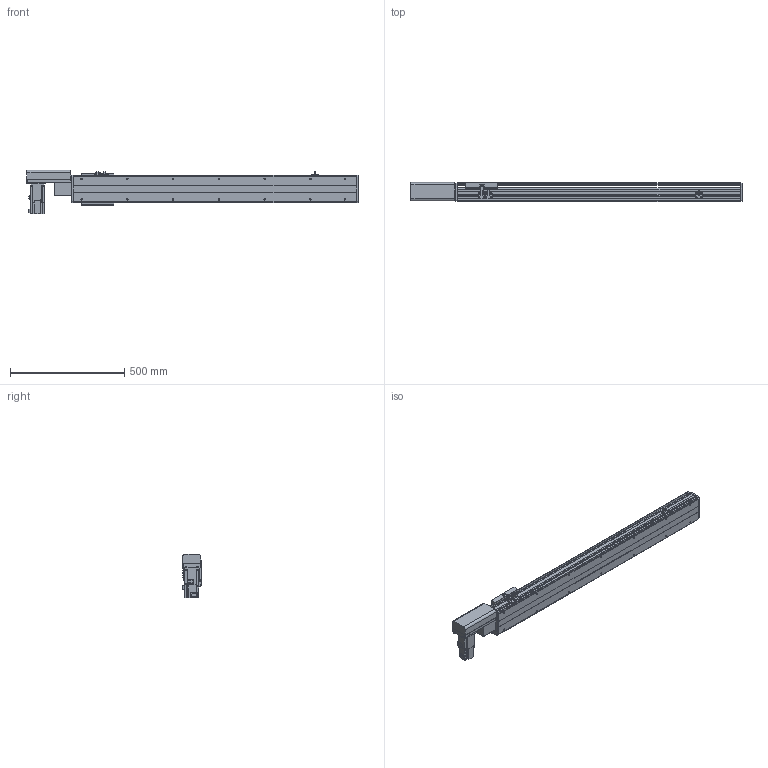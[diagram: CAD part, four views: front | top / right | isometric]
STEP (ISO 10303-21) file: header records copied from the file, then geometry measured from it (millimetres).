
FILE_DESCRIPTION( ( 'STEP AP214' ), '1' );
FILE_NAME( 'x:/temp/worker_27/temp/exporttempdir_6708_11_kRHUu/format_0/PBS120-P40-S950-R-T40-C1-N(0).stp', '2022-06-06T00:06:40', ( 'License CC BY-ND 4.0' ), ( 'CADENAS' ), ' ', 'PARTsolutions', ' ' );
FILE_SCHEMA( ( 'AUTOMOTIVE_DESIGN { 1 0 10303 214 1 1 1 1 }' ) );
Length unit declared in the file: millimetre
Products named in the file (7): PBS120-P40-S950-R-T40-C1-N(0); _PBS120-S950()_body; _PBS120T-R_motors; _T40-p1; _PBS120_sliser; _PBS120_plant; _PBS120_sensor
Assembly tree (8 placements, depth 2):
  PBS120-P40-S950-R-T40-C1-N(0)
    _PBS120-S950()_body
    _PBS120T-R_motors
    _T40-p1
    _PBS120_sliser
    _PBS120_plant
    _PBS120_sensor  x3
Bounding box: 1451 x 83 x 189.7 mm (x, y, z)
Volume: 5798548.5 mm3; surface area: 1127829.9 mm2
Topology: 8 solids, 8 shells, 822 faces, 2146 edges, 1381 vertices
Faces by surface type: plane 547, cylinder 227, cone 46, torus 2
Full cylindrical faces by diameter (mm): 2.459 x6, 3.242 x4, 4 x2, 4.134 x4, 4.5 x10, 4.917 x18, 5.5 x11, 6 x2, 6.6 x1, 7 x2, 8.5 x4, 9 x4, 12 x1, 14 x1, 30 x2, 40 x1, 50 x2
Entity records: 27156 total; most frequent: DIRECTION 3716, CARTESIAN_POINT 3659, ORIENTED_EDGE 3490, EDGE_CURVE 1745, AXIS2_PLACEMENT_3D 1244, LINE 1228, VECTOR 1228, VERTEX_POINT 1187
